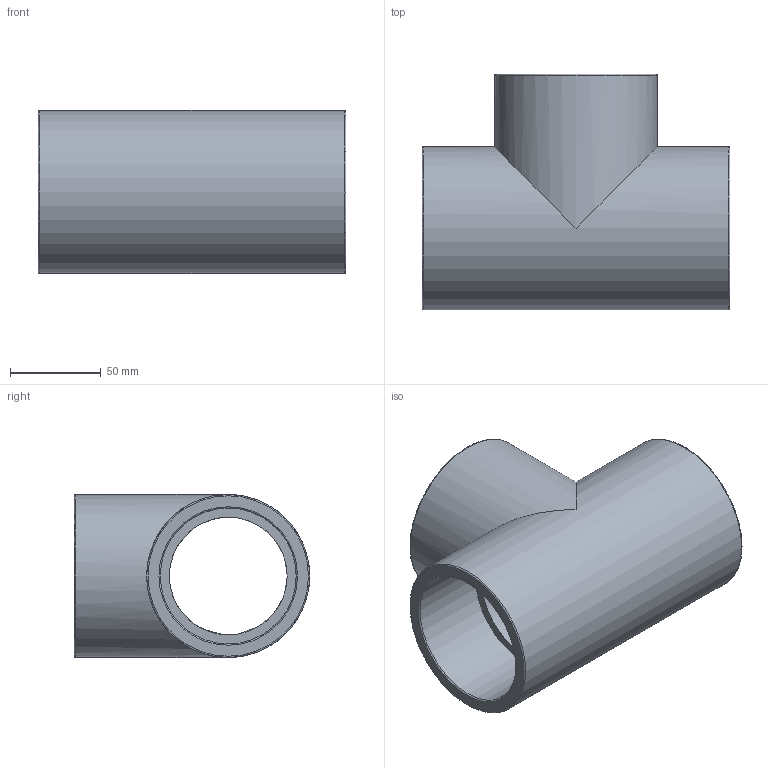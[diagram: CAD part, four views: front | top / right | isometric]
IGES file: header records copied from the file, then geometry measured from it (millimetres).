
Global section: file name: 050402075025.ipt; native system: Autodesk Inventor 2015; preprocessor: unknown; author: KIM; date: 20171207.164539; units: millimetre
Bounding box: 170 x 130 x 90 mm (x, y, z)
Volume: 505085.9 mm3; surface area: 111664.9 mm2
Topology: 1 solids, 1 shells, 18 faces, 53 edges, 40 vertices
Faces by surface type: revolution 10, plane 6, cylinder 2
Full cylindrical faces by diameter (mm): 90 x2
